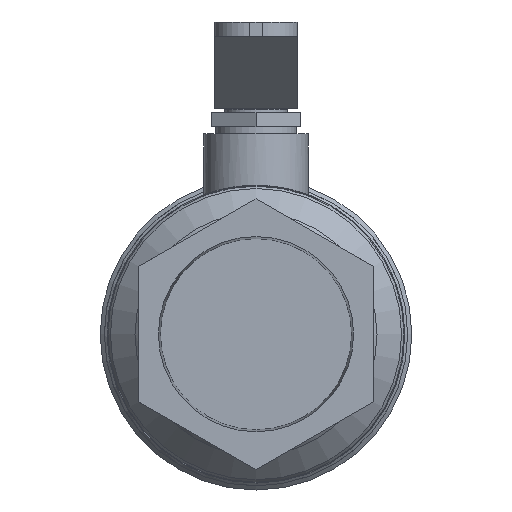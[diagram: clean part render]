
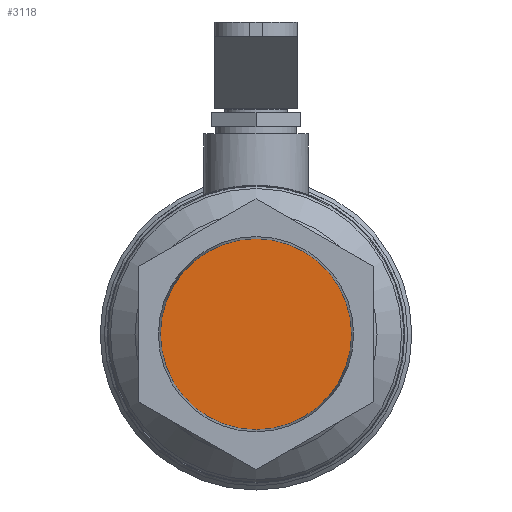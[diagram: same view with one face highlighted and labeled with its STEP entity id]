
A CAD part, left-side view. The second image highlights one B-rep face of the part: STEP entity #3118.
In plain terms, the highlighted free-form (B-spline) face has degree [1, 1] with [2, 2] control points.
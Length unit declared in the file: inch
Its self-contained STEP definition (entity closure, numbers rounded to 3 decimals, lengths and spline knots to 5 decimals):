
#3102=CARTESIAN_POINT('',(0.932,1.35196,1.35196));
#3103=CARTESIAN_POINT('',(0.932,-1.35196,1.35196));
#3104=CARTESIAN_POINT('',(0.932,1.35196,-1.35196));
#3105=CARTESIAN_POINT('',(0.932,-1.35196,-1.35196));
#3106=B_SPLINE_SURFACE_WITH_KNOTS('',1,1,((#3102,#3104),(#3103,#3105)),.UNSPECIFIED.,.F.,.F.,.U.,(2,2),(2,2),(0.0,2.70391),(0.0,2.70391),.UNSPECIFIED.);
#3107=CARTESIAN_POINT('',(0.932,1.35196,0.0));
#3108=VERTEX_POINT('',#3107);
#3109=CARTESIAN_POINT('',(0.932,0.0,0.0));
#3110=DIRECTION('',(1.0,0.0,0.0));
#3111=DIRECTION('',(0.0,1.0,0.0));
#3112=AXIS2_PLACEMENT_3D('',#3109,#3110,#3111);
#3113=CIRCLE('',#3112,1.35196);
#3114=EDGE_CURVE('',#3108,#3108,#3113,.T.);
#3115=ORIENTED_EDGE('',*,*,#3114,.F.);
#3116=EDGE_LOOP('',(#3115));
#3117=FACE_OUTER_BOUND('',#3116,.T.);
#3118=ADVANCED_FACE('',(#3117),#3106,.F.);
